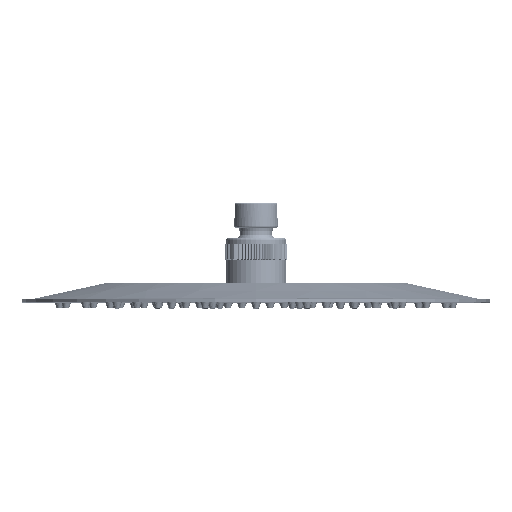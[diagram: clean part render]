
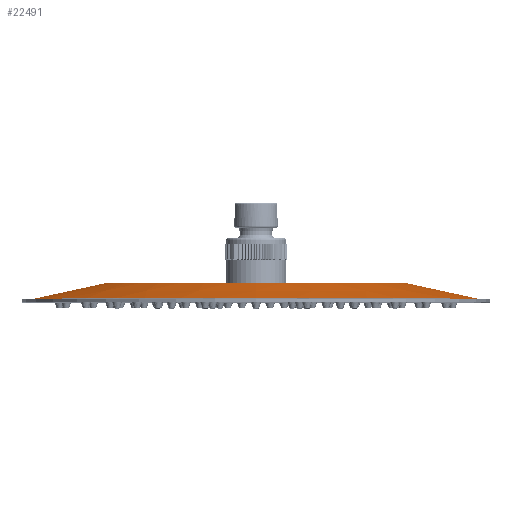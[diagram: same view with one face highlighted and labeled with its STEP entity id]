
A CAD part, top view. The second image highlights one B-rep face of the part: STEP entity #22491.
In plain terms, the highlighted conical face has half-angle 77.705 degrees and reference radius 99.5 mm.
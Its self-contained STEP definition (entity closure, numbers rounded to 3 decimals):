
#20873=CARTESIAN_POINT('',(0.,9.385,0.));
#20874=DIRECTION('',(0.,1.,0.));
#20875=DIRECTION('',(-1.,0.,0.));
#20876=AXIS2_PLACEMENT_3D('',#20873,#20874,#20875);
#20878=DIRECTION('',(-0.977,0.213,0.));
#20879=VECTOR('',#20878,38.838);
#20880=CARTESIAN_POINT('',(118.474,1.115,
0.));
#20881=LINE('',#20880,#20879);
#20882=CARTESIAN_POINT('',(0.,1.115,0.));
#20883=DIRECTION('',(0.,-1.,0.));
#20884=DIRECTION('',(1.,0.,0.));
#20885=AXIS2_PLACEMENT_3D('',#20882,#20883,#20884);
#20887=DIRECTION('',(0.977,0.213,0.));
#20888=VECTOR('',#20887,38.838);
#20889=CARTESIAN_POINT('',(-118.474,1.115,
0.));
#20890=LINE('',#20889,#20888);
#21665=CARTESIAN_POINT('',(80.526,9.385,0.));
#21666=CARTESIAN_POINT('',(-80.526,9.385,0.));
#21667=VERTEX_POINT('',#21665);
#21668=VERTEX_POINT('',#21666);
#21669=CARTESIAN_POINT('',(-118.474,1.115,
0.));
#21670=CARTESIAN_POINT('',(118.474,1.115,0.));
#21671=VERTEX_POINT('',#21669);
#21672=VERTEX_POINT('',#21670);
#22479=CARTESIAN_POINT('',(0.,5.25,0.));
#22480=DIRECTION('',(0.,-1.,0.));
#22481=DIRECTION('',(-1.,0.,0.));
#22482=AXIS2_PLACEMENT_3D('',#22479,#22480,#22481);
#22483=CONICAL_SURFACE('',#22482,99.5,77.705);
#22484=ORIENTED_EDGE('',*,*,#22473,.T.);
#22485=ORIENTED_EDGE('',*,*,#22447,.F.);
#22487=ORIENTED_EDGE('',*,*,#22486,.T.);
#22488=ORIENTED_EDGE('',*,*,#22444,.T.);
#22489=EDGE_LOOP('',(#22484,#22485,#22487,#22488));
#22490=FACE_OUTER_BOUND('',#22489,.F.);
#22491=ADVANCED_FACE('',(#22490),#22483,.T.);
#20877=CIRCLE('',#20876,80.526);
#20886=CIRCLE('',#20885,118.474);
#22444=EDGE_CURVE('',#21671,#21668,#20890,.T.);
#22447=EDGE_CURVE('',#21672,#21667,#20881,.T.);
#22473=EDGE_CURVE('',#21668,#21667,#20877,.T.);
#22486=EDGE_CURVE('',#21672,#21671,#20886,.T.);
